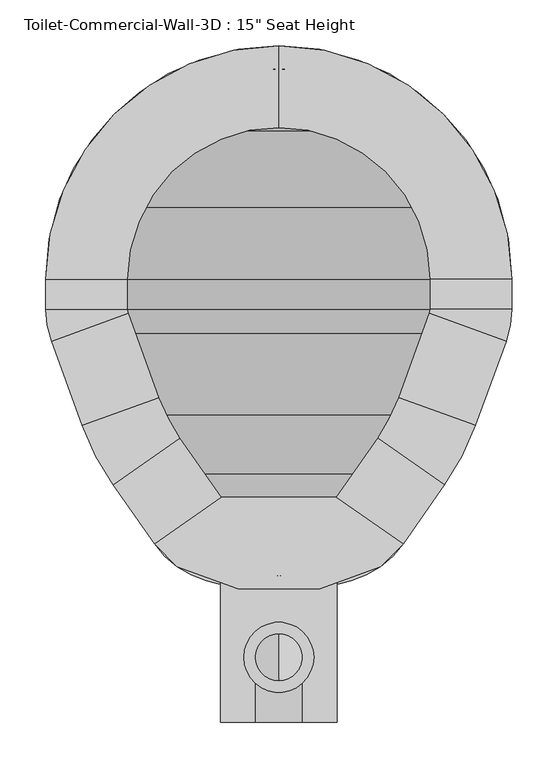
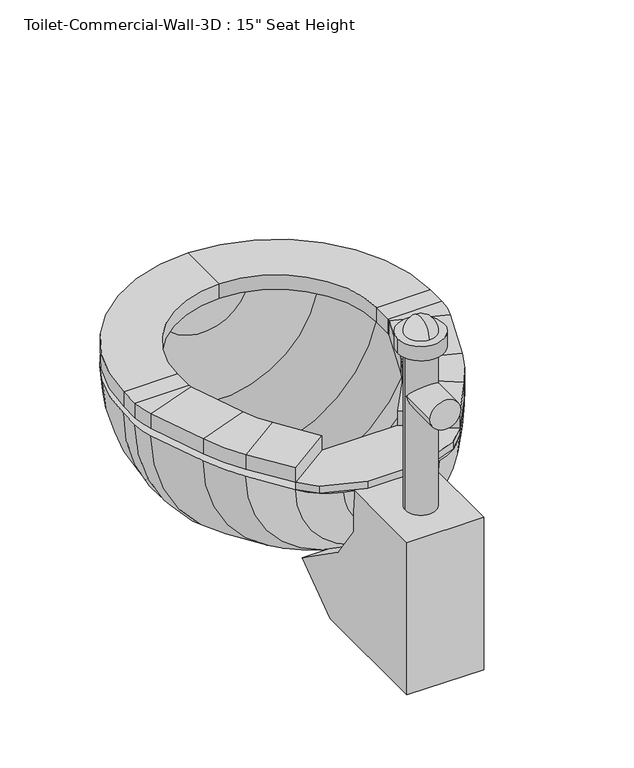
"""IFC4 building model written with IfcOpenShell, lengths in millimetres: flow terminal geometry."""

from ifc_helpers import new_model, si_unit, point, frame, frame_2d, origin, place, context, project, spatial, polyline, circle_curve, ellipse_curve, trimmed, segment, composite_curve, outline, extrude, source, transform, mapped, element, save
from ifc_brep_helpers import plane_surface, cylinder_surface, revolved_surface, advanced_brep


def flow_terminal_46437620(model_context):
    return source(origin(), model_context, "Body", "SolidModel", [
        extrude(outline(polyline([(209.9537941, 342.9), (209.9537941, 269.296452), (253.6603185, 206.8770663), (357.6926282, 134.0328588), (277.1954017, 76.2), (57.15, 76.2), (57.15, 342.9), (209.9537941, 342.9)])), frame((341.4031538, 0.0, 0.0), z_axis=(1.0, 0.0, 0.0), x_axis=(0.0, 1.0, 0.0)), (0.0, 0.0, 1.0), 127.0),
        extrude(outline(composite_curve([segment(trimmed(circle_curve(frame_2d((404.9031538, 127.6852737)), 25.4), [point((379.5031538, 127.6852737))], [point((430.3031538, 127.6852737))], False, "CARTESIAN"), True, "CONTINUOUS"), segment(trimmed(circle_curve(frame_2d((404.9031538, 127.6852737)), 25.4), [point((430.3031538, 127.6852737))], [point((379.5031538, 127.6852737))], False, "CARTESIAN"), True, "CONTINUOUS")], self_intersect=False)), frame((0.0, 0.0, 342.9), z_axis=(0.0, 0.0, 1.0), x_axis=(1.0, 0.0, 0.0)), (0.0, 0.0, 1.0), 279.4),
        extrude(outline(composite_curve([segment(trimmed(circle_curve(frame_2d((544.2113641, 404.9031538)), 25.4), [point((544.2113641, 379.5031538))], [point((544.2113641, 430.3031538))], False, "CARTESIAN"), True, "CONTINUOUS"), segment(trimmed(circle_curve(frame_2d((544.2113641, 404.9031538)), 25.4), [point((544.2113641, 430.3031538))], [point((544.2113641, 379.5031538))], False, "CARTESIAN"), True, "CONTINUOUS")], self_intersect=False)), frame((0.0, 57.15, 0.0), z_axis=(0.0, 1.0, 0.0), x_axis=(0.0, 0.0, 1.0)), (0.0, 0.0, 1.0), 70.64375),
        extrude(outline(composite_curve([segment(trimmed(circle_curve(frame_2d((404.9031538, 127.6852737)), 38.1), [point((366.8031538, 127.6852737))], [point((443.0031538, 127.6852737))], False, "CARTESIAN"), True, "CONTINUOUS"), segment(trimmed(circle_curve(frame_2d((404.9031538, 127.6852737)), 38.1), [point((443.0031538, 127.6852737))], [point((366.8031538, 127.6852737))], False, "CARTESIAN"), True, "CONTINUOUS")], self_intersect=False)), frame((0.0, 0.0, 622.3), z_axis=(0.0, 0.0, 1.0), x_axis=(1.0, 0.0, 0.0)), (0.0, 0.0, 1.0), 25.4),
        advanced_brep(
        [(404.9031538, 102.0676912, 647.7), (404.9031538, 153.3028563, 647.7), (404.9031538, 127.6852737, 673.3175826), (404.9031538, 127.6852737, 647.7)],
        [
            (0, 1, circle_curve(frame((404.9031538, 127.6852737, 647.7), z_axis=(0.0, 0.0, 1.0), x_axis=(0.0, 1.0, 0.0)), 25.6175826)),
            (1, 2, circle_curve(frame((404.9031538, 127.6852737, 647.7), z_axis=(1.0, 0.0, 0.0), x_axis=(0.0, -1.0, 0.0)), 25.6175826)),
            (2, 0, circle_curve(frame((404.9031538, 127.6852737, 647.7), z_axis=(1.0, 0.0, 0.0), x_axis=(0.0, 1.0, 0.0)), 25.6175826)),
            (1, 0, circle_curve(frame((404.9031538, 127.6852737, 647.7), z_axis=(0.0, 0.0, 1.0), x_axis=(0.0, 1.0, 0.0)), 25.6175826)),
            (3, 1),
            (0, 3),
        ],
        [
            revolved_surface(trimmed(ellipse_curve(frame((404.9031538, 127.6852737, 647.7), z_axis=(-1.0, 0.0, 0.0), x_axis=(0.0, -1.0, 0.0)), 25.6175826, 25.6175826), [point((404.9031538, 127.6852737, 673.3175826))], [point((404.9031538, 153.3028563, 647.7))], True, "CARTESIAN"), (404.9031538, 127.6852737, 712.3277273), (0.0, 0.0, -1.0)),
            plane_surface(frame((404.9031538, 127.6852737, 647.7), z_axis=(0.0, 0.0, -1.0), x_axis=(0.0, 1.0, 0.0))),
        ],
        [
            (0, [[1, 2, 3]]),
            (0, [[4, -3, -2]]),
            (1, [[5, -1, 6]]),
            (1, [[-6, -4, -5]]),
        ],
    ),
        advanced_brep(
        [(491.7762702, 778.4319257, 342.9), (404.9031538, 793.75, 342.9), (404.9031538, 768.35, 342.9), (483.0889586, 754.5637331, 342.9), (566.547764, 701.3946102, 342.9), (619.7168869, 617.9358048, 342.9), (633.5031538, 539.75, 342.9), (633.5031538, 506.8648212, 342.9), (628.9077315, 480.8028863, 342.9), (596.6355667, 392.1358422, 342.9), (562.9565296, 327.4390139, 342.9), (525.0728964, 273.3355786, 342.9), (468.1430637, 233.4728806, 342.9), (404.9031538, 216.5277978, 342.9), (404.9031538, 190.2317829, 342.9), (483.6469009, 211.3311063, 342.9), (540.5767337, 251.1938043, 342.9), (585.6810159, 315.6093951, 342.9), (619.360053, 380.3062234, 342.9), (652.7759241, 472.1155747, 342.9), (658.9031538, 506.8648212, 342.9), (658.9031538, 539.75, 342.9), (643.5850795, 626.6231164, 342.9), (584.5082762, 719.3551224, 342.9), (318.0300374, 778.4319257, 342.9), (225.2980314, 719.3551224, 342.9), (166.2212281, 626.6231164, 342.9), (150.9031538, 539.75, 342.9), (150.9031538, 506.8648212, 342.9), (157.0303835, 472.1155747, 342.9), (190.4462546, 380.3062234, 342.9), (224.1252917, 315.6093951, 342.9), (269.229574, 251.1938043, 342.9), (326.1594067, 211.3311063, 342.9), (341.663244, 233.4728806, 342.9), (284.7334112, 273.3355786, 342.9), (246.849778, 327.4390139, 342.9), (213.1707409, 392.1358422, 342.9), (180.8985761, 480.8028863, 342.9), (176.3031538, 506.8648212, 342.9), (176.3031538, 539.75, 342.9), (190.0894207, 617.9358048, 342.9), (243.2585436, 701.3946102, 342.9), (326.7173491, 754.5637331, 342.9)],
        [
            (0, 1, circle_curve(frame((404.9031538, 539.75, 342.9), z_axis=(0.0, 0.0, 1.0), x_axis=(1.0, 0.0, 0.0)), 254.0)),
            (1, 2),
            (2, 3, circle_curve(frame((404.9031538, 539.75, 342.9), z_axis=(0.0, 0.0, -1.0), x_axis=(1.0, 0.0, 0.0)), 228.6)),
            (3, 4, circle_curve(frame((404.9031538, 539.75, 342.9), z_axis=(0.0, 0.0, -1.0), x_axis=(1.0, 0.0, 0.0)), 228.6)),
            (4, 5, circle_curve(frame((404.9031538, 539.75, 342.9), z_axis=(0.0, 0.0, -1.0), x_axis=(1.0, 0.0, 0.0)), 228.6)),
            (5, 6, circle_curve(frame((404.9031538, 539.75, 342.9), z_axis=(0.0, 0.0, -1.0), x_axis=(1.0, 0.0, 0.0)), 228.6)),
            (6, 7),
            (7, 8, circle_curve(frame((557.3031538, 506.8648212, 342.9), z_axis=(0.0, 0.0, -1.0), x_axis=(1.0, 0.0, 0.0)), 76.2)),
            (8, 9),
            (9, 10, circle_curve(frame((334.0854485, 487.6962703, 342.9), z_axis=(0.0, 0.0, -1.0), x_axis=(1.0, 0.0, 0.0)), 279.4)),
            (10, 11),
            (11, 12, circle_curve(frame((441.8470487, 331.6109446, 342.9), z_axis=(0.0, 0.0, -1.0), x_axis=(1.0, 0.0, 0.0)), 101.6)),
            (12, 13),
            (13, 14),
            (14, 15),
            (15, 16, circle_curve(frame((457.350886, 309.4691703, 342.9), z_axis=(0.0, 0.0, 1.0), x_axis=(1.0, 0.0, 0.0)), 101.6)),
            (16, 17),
            (17, 18, circle_curve(frame((356.8099347, 475.8666514, 342.9), z_axis=(0.0, 0.0, 1.0), x_axis=(1.0, 0.0, 0.0)), 279.4)),
            (18, 19),
            (19, 20, circle_curve(frame((557.3031538, 506.8648212, 342.9), z_axis=(0.0, 0.0, 1.0), x_axis=(1.0, 0.0, 0.0)), 101.6)),
            (20, 21),
            (21, 22, circle_curve(frame((404.9031538, 539.75, 342.9), z_axis=(0.0, 0.0, 1.0), x_axis=(1.0, 0.0, 0.0)), 254.0)),
            (22, 23, circle_curve(frame((404.9031538, 539.75, 342.9), z_axis=(0.0, 0.0, 1.0), x_axis=(1.0, 0.0, 0.0)), 254.0)),
            (23, 0, circle_curve(frame((404.9031538, 539.75, 342.9), z_axis=(0.0, 0.0, 1.0), x_axis=(1.0, 0.0, 0.0)), 254.0)),
            (24, 25, circle_curve(frame((404.9031538, 539.75, 342.9), z_axis=(0.0, 0.0, 1.0), x_axis=(-1.0, 0.0, 0.0)), 254.0)),
            (25, 26, circle_curve(frame((404.9031538, 539.75, 342.9), z_axis=(0.0, 0.0, 1.0), x_axis=(-1.0, 0.0, 0.0)), 254.0)),
            (26, 27, circle_curve(frame((404.9031538, 539.75, 342.9), z_axis=(0.0, 0.0, 1.0), x_axis=(-1.0, 0.0, 0.0)), 254.0)),
            (27, 28),
            (28, 29, circle_curve(frame((252.5031538, 506.8648212, 342.9), z_axis=(0.0, 0.0, 1.0), x_axis=(-1.0, 0.0, 0.0)), 101.6)),
            (29, 30),
            (30, 31, circle_curve(frame((452.9963729, 475.8666514, 342.9), z_axis=(0.0, 0.0, 1.0), x_axis=(-1.0, 0.0, 0.0)), 279.4)),
            (31, 32),
            (32, 33, circle_curve(frame((352.4554217, 309.4691703, 342.9), z_axis=(0.0, 0.0, 1.0), x_axis=(-1.0, 0.0, 0.0)), 101.6)),
            (33, 14),
            (13, 34),
            (34, 35, circle_curve(frame((367.9592589, 331.6109446, 342.9), z_axis=(0.0, 0.0, -1.0), x_axis=(-1.0, 0.0, 0.0)), 101.6)),
            (35, 36),
            (36, 37, circle_curve(frame((475.7208592, 487.6962703, 342.9), z_axis=(0.0, 0.0, -1.0), x_axis=(-1.0, 0.0, 0.0)), 279.4)),
            (37, 38),
            (38, 39, circle_curve(frame((252.5031538, 506.8648212, 342.9), z_axis=(0.0, 0.0, -1.0), x_axis=(-1.0, 0.0, 0.0)), 76.2)),
            (39, 40),
            (40, 41, circle_curve(frame((404.9031538, 539.75, 342.9), z_axis=(0.0, 0.0, -1.0), x_axis=(-1.0, 0.0, 0.0)), 228.6)),
            (41, 42, circle_curve(frame((404.9031538, 539.75, 342.9), z_axis=(0.0, 0.0, -1.0), x_axis=(-1.0, 0.0, 0.0)), 228.6)),
            (42, 43, circle_curve(frame((404.9031538, 539.75, 342.9), z_axis=(0.0, 0.0, -1.0), x_axis=(-1.0, 0.0, 0.0)), 228.6)),
            (43, 2, circle_curve(frame((404.9031538, 539.75, 342.9), z_axis=(0.0, 0.0, -1.0), x_axis=(-1.0, 0.0, 0.0)), 228.6)),
            (1, 24, circle_curve(frame((404.9031538, 539.75, 342.9), z_axis=(0.0, 0.0, 1.0), x_axis=(-1.0, 0.0, 0.0)), 254.0)),
            (0, 24, circle_curve(frame((404.9031538, 778.4319257, 342.9), z_axis=(0.0, 1.0, 0.0), x_axis=(1.0, 0.0, 0.0)), 86.8731164)),
            (43, 3, circle_curve(frame((404.9031538, 754.5637331, 342.9), z_axis=(0.0, -1.0, 0.0), x_axis=(1.0, 0.0, 0.0)), 78.1858048)),
            (42, 4, circle_curve(frame((404.9031538, 701.3946102, 342.9), z_axis=(0.0, -1.0, 0.0), x_axis=(1.0, 0.0, 0.0)), 161.6446102)),
            (41, 5, circle_curve(frame((404.9031538, 617.9358048, 342.9), z_axis=(0.0, -1.0, 0.0), x_axis=(1.0, 0.0, 0.0)), 214.8137331)),
            (40, 6, circle_curve(frame((404.9031538, 539.75, 342.9), z_axis=(0.0, -1.0, 0.0), x_axis=(1.0, 0.0, 0.0)), 228.6)),
            (39, 7, circle_curve(frame((404.9031538, 506.8648212, 342.9), z_axis=(0.0, -1.0, 0.0), x_axis=(1.0, 0.0, 0.0)), 228.6)),
            (38, 8, circle_curve(frame((404.9031538, 480.8028863, 342.9), z_axis=(0.0, -1.0, 0.0), x_axis=(1.0, 0.0, 0.0)), 224.0045777)),
            (37, 9, circle_curve(frame((404.9031538, 392.1358422, 342.9), z_axis=(0.0, -1.0, 0.0), x_axis=(1.0, 0.0, 0.0)), 191.7324129)),
            (36, 10, circle_curve(frame((404.9031538, 327.4390139, 342.9), z_axis=(0.0, -1.0, 0.0), x_axis=(1.0, 0.0, 0.0)), 158.0533758)),
            (35, 11, circle_curve(frame((404.9031538, 273.3355786, 342.9), z_axis=(0.0, -1.0, 0.0), x_axis=(1.0, 0.0, 0.0)), 120.1697426)),
            (34, 12, circle_curve(frame((404.9031538, 233.4728806, 342.9), z_axis=(0.0, -1.0, 0.0), x_axis=(1.0, 0.0, 0.0)), 63.2399099)),
            (33, 15, circle_curve(frame((404.9031538, 211.3311063, 342.9), z_axis=(0.0, -1.0, 0.0), x_axis=(1.0, 0.0, 0.0)), 78.7437471)),
            (32, 16, circle_curve(frame((404.9031538, 251.1938043, 342.9), z_axis=(0.0, -1.0, 0.0), x_axis=(1.0, 0.0, 0.0)), 135.6735798)),
            (31, 17, circle_curve(frame((404.9031538, 315.6093951, 342.9), z_axis=(0.0, -1.0, 0.0), x_axis=(1.0, 0.0, 0.0)), 180.7778621)),
            (30, 18, circle_curve(frame((404.9031538, 380.3062234, 342.9), z_axis=(0.0, -1.0, 0.0), x_axis=(1.0, 0.0, 0.0)), 214.4568992)),
            (29, 19, circle_curve(frame((404.9031538, 472.1155747, 342.9), z_axis=(0.0, -1.0, 0.0), x_axis=(1.0, 0.0, 0.0)), 247.8727703)),
            (28, 20, circle_curve(frame((404.9031538, 506.8648212, 342.9), z_axis=(0.0, -1.0, 0.0), x_axis=(1.0, 0.0, 0.0)), 254.0)),
            (27, 21, circle_curve(frame((404.9031538, 539.75, 342.9), z_axis=(0.0, -1.0, 0.0), x_axis=(1.0, 0.0, 0.0)), 254.0)),
            (26, 22, circle_curve(frame((404.9031538, 626.6231164, 342.9), z_axis=(0.0, -1.0, 0.0), x_axis=(1.0, 0.0, 0.0)), 238.6819257)),
            (25, 23, circle_curve(frame((404.9031538, 719.3551224, 342.9), z_axis=(0.0, -1.0, 0.0), x_axis=(1.0, 0.0, 0.0)), 179.6051224)),
        ],
        [
            plane_surface(frame((404.9031538, 898.9602448, 342.9), z_axis=(0.0, 0.0, 1.0), x_axis=(1.0, 0.0, 0.0))),
            plane_surface(frame((404.9031538, 898.9602448, 342.9), z_axis=(0.0, 0.0, 1.0), x_axis=(-1.0, 0.0, 0.0))),
            revolved_surface(trimmed(ellipse_curve(frame((404.9031538, 539.75, 342.9), z_axis=(0.0, 0.0, 1.0), x_axis=(1.0, 0.0, 0.0)), 254.0, 254.0), [point((491.7762702, 778.4319257, 342.9))], [point((404.9031538, 793.75, 342.9))], True, "CARTESIAN"), (404.9031538, 898.9602448, 342.9), (0.0, 1.0, 0.0)),
            revolved_surface(trimmed(ellipse_curve(frame((404.9031538, 539.75, 342.9), z_axis=(0.0, 0.0, -1.0), x_axis=(1.0, 0.0, 0.0)), 228.6, 228.6), [point((404.9031538, 768.35, 342.9))], [point((483.0889586, 754.5637331, 342.9))], True, "CARTESIAN"), (404.9031538, 898.9602448, 342.9), (0.0, 1.0, 0.0)),
            revolved_surface(trimmed(ellipse_curve(frame((404.9031538, 539.75, 342.9), z_axis=(0.0, 0.0, -1.0), x_axis=(1.0, 0.0, 0.0)), 228.6, 228.6), [point((483.0889586, 754.5637331, 342.9))], [point((566.547764, 701.3946102, 342.9))], True, "CARTESIAN"), (404.9031538, 898.9602448, 342.9), (0.0, 1.0, 0.0)),
            revolved_surface(trimmed(ellipse_curve(frame((404.9031538, 539.75, 342.9), z_axis=(0.0, 0.0, -1.0), x_axis=(1.0, 0.0, 0.0)), 228.6, 228.6), [point((566.547764, 701.3946102, 342.9))], [point((619.7168869, 617.9358048, 342.9))], True, "CARTESIAN"), (404.9031538, 898.9602448, 342.9), (0.0, 1.0, 0.0)),
            revolved_surface(trimmed(ellipse_curve(frame((404.9031538, 539.75, 342.9), z_axis=(0.0, 0.0, -1.0), x_axis=(1.0, 0.0, 0.0)), 228.6, 228.6), [point((619.7168869, 617.9358048, 342.9))], [point((633.5031538, 539.75, 342.9))], True, "CARTESIAN"), (404.9031538, 898.9602448, 342.9), (0.0, 1.0, 0.0)),
            revolved_surface(polyline([(633.5031538, 539.75, 342.9), (633.5031538, 506.8648212, 342.9)]), (404.9031538, 898.9602448, 342.9), (0.0, 1.0, 0.0)),
            revolved_surface(trimmed(ellipse_curve(frame((557.3031538, 506.8648212, 342.9), z_axis=(0.0, 0.0, -1.0), x_axis=(1.0, 0.0, 0.0)), 76.2, 76.2), [point((633.5031538, 506.8648212, 342.9))], [point((628.9077315, 480.8028863, 342.9))], True, "CARTESIAN"), (404.9031538, 898.9602448, 342.9), (0.0, 1.0, 0.0)),
            revolved_surface(polyline([(628.9077315, 480.8028863, 342.9), (596.6355667, 392.1358422, 342.9)]), (404.9031538, 898.9602448, 342.9), (0.0, 1.0, 0.0)),
            revolved_surface(trimmed(ellipse_curve(frame((334.0854485, 487.6962703, 342.9), z_axis=(0.0, 0.0, -1.0), x_axis=(1.0, 0.0, 0.0)), 279.4, 279.4), [point((596.6355667, 392.1358422, 342.9))], [point((562.9565296, 327.4390139, 342.9))], True, "CARTESIAN"), (404.9031538, 898.9602448, 342.9), (0.0, 1.0, 0.0)),
            revolved_surface(polyline([(562.9565296, 327.4390139, 342.9), (525.0728964, 273.3355786, 342.9)]), (404.9031538, 898.9602448, 342.9), (0.0, 1.0, 0.0)),
            revolved_surface(trimmed(ellipse_curve(frame((441.8470487, 331.6109446, 342.9), z_axis=(0.0, 0.0, -1.0), x_axis=(1.0, 0.0, 0.0)), 101.6, 101.6), [point((525.0728964, 273.3355786, 342.9))], [point((468.1430637, 233.4728806, 342.9))], True, "CARTESIAN"), (404.9031538, 898.9602448, 342.9), (0.0, 1.0, 0.0)),
            revolved_surface(polyline([(468.1430637, 233.4728806, 342.9), (404.9031538, 216.5277978, 342.9)]), (404.9031538, 898.9602448, 342.9), (0.0, 1.0, 0.0)),
            revolved_surface(polyline([(404.9031538, 190.2317829, 342.9), (483.6469009, 211.3311063, 342.9)]), (404.9031538, 898.9602448, 342.9), (0.0, 1.0, 0.0)),
            revolved_surface(trimmed(ellipse_curve(frame((457.350886, 309.4691703, 342.9), z_axis=(0.0, 0.0, 1.0), x_axis=(1.0, 0.0, 0.0)), 101.6, 101.6), [point((483.6469009, 211.3311063, 342.9))], [point((540.5767337, 251.1938043, 342.9))], True, "CARTESIAN"), (404.9031538, 898.9602448, 342.9), (0.0, 1.0, 0.0)),
            revolved_surface(polyline([(540.5767337, 251.1938043, 342.9), (585.6810159, 315.6093951, 342.9)]), (404.9031538, 898.9602448, 342.9), (0.0, 1.0, 0.0)),
            revolved_surface(trimmed(ellipse_curve(frame((356.8099347, 475.8666514, 342.9), z_axis=(0.0, 0.0, 1.0), x_axis=(1.0, 0.0, 0.0)), 279.4, 279.4), [point((585.6810159, 315.6093951, 342.9))], [point((619.360053, 380.3062234, 342.9))], True, "CARTESIAN"), (404.9031538, 898.9602448, 342.9), (0.0, 1.0, 0.0)),
            revolved_surface(polyline([(619.360053, 380.3062234, 342.9), (652.7759241, 472.1155747, 342.9)]), (404.9031538, 898.9602448, 342.9), (0.0, 1.0, 0.0)),
            revolved_surface(trimmed(ellipse_curve(frame((557.3031538, 506.8648212, 342.9), z_axis=(0.0, 0.0, 1.0), x_axis=(1.0, 0.0, 0.0)), 101.6, 101.6), [point((652.7759241, 472.1155747, 342.9))], [point((658.9031538, 506.8648212, 342.9))], True, "CARTESIAN"), (404.9031538, 898.9602448, 342.9), (0.0, 1.0, 0.0)),
            cylinder_surface(frame((404.9031538, 898.9602448, 342.9), z_axis=(0.0, 1.0, 0.0), x_axis=(1.0, 0.0, 0.0)), 254.0),
            revolved_surface(trimmed(ellipse_curve(frame((404.9031538, 539.75, 342.9), z_axis=(0.0, 0.0, 1.0), x_axis=(1.0, 0.0, 0.0)), 254.0, 254.0), [point((658.9031538, 539.75, 342.9))], [point((643.5850795, 626.6231164, 342.9))], True, "CARTESIAN"), (404.9031538, 898.9602448, 342.9), (0.0, 1.0, 0.0)),
            revolved_surface(trimmed(ellipse_curve(frame((404.9031538, 539.75, 342.9), z_axis=(0.0, 0.0, 1.0), x_axis=(1.0, 0.0, 0.0)), 254.0, 254.0), [point((643.5850795, 626.6231164, 342.9))], [point((584.5082762, 719.3551224, 342.9))], True, "CARTESIAN"), (404.9031538, 898.9602448, 342.9), (0.0, 1.0, 0.0)),
            revolved_surface(trimmed(ellipse_curve(frame((404.9031538, 539.75, 342.9), z_axis=(0.0, 0.0, 1.0), x_axis=(1.0, 0.0, 0.0)), 254.0, 254.0), [point((584.5082762, 719.3551224, 342.9))], [point((491.7762702, 778.4319257, 342.9))], True, "CARTESIAN"), (404.9031538, 898.9602448, 342.9), (0.0, 1.0, 0.0)),
        ],
        [
            (0, [[1, 2, 3, 4, 5, 6, 7, 8, 9, 10, 11, 12, 13, 14, 15, 16, 17, 18, 19, 20, 21, 22, 23, 24]]),
            (1, [[25, 26, 27, 28, 29, 30, 31, 32, 33, 34, -14, 35, 36, 37, 38, 39, 40, 41, 42, 43, 44, 45, -2, 46]]),
            (2, [[-1, 47, -46]]),
            (3, [[48, -3, -45]]),
            (4, [[49, -4, -48, -44]]),
            (5, [[50, -5, -49, -43]]),
            (6, [[51, -6, -50, -42]]),
            (7, [[52, -7, -51, -41]]),
            (8, [[53, -8, -52, -40]]),
            (9, [[54, -9, -53, -39]]),
            (10, [[55, -10, -54, -38]]),
            (11, [[56, -11, -55, -37]]),
            (12, [[57, -12, -56, -36]]),
            (13, [[-13, -57, -35]]),
            (14, [[58, -15, -34]]),
            (15, [[59, -16, -58, -33]]),
            (16, [[60, -17, -59, -32]]),
            (17, [[61, -18, -60, -31]]),
            (18, [[62, -19, -61, -30]]),
            (19, [[63, -20, -62, -29]]),
            (20, [[64, -21, -63, -28]]),
            (21, [[65, -22, -64, -27]]),
            (22, [[66, -23, -65, -26]]),
            (23, [[-47, -24, -66, -25]]),
        ],
    ),
        advanced_brep(
        [(467.7541169, 302.1847495, 355.6), (540.5767337, 251.1938043, 355.6), (540.5767337, 251.1938043, 381.0), (467.7541169, 302.1847495, 381.0), (512.8583992, 366.6003403, 355.6), (585.6810159, 315.6093951, 355.6), (585.6810159, 315.6093951, 381.0), (512.8583992, 366.6003403, 381.0), (619.360053, 380.3062234, 355.6), (535.821379, 410.7118141, 355.6), (619.360053, 380.3062234, 381.0), (535.821379, 410.7118141, 381.0), (569.2372501, 502.5211654, 355.6), (652.7759241, 472.1155747, 355.6), (652.7759241, 472.1155747, 381.0), (569.2372501, 502.5211654, 381.0), (658.9031538, 506.8648212, 355.6), (570.0031538, 506.8648212, 355.6), (658.9031538, 506.8648212, 381.0), (570.0031538, 506.8648212, 381.0), (570.0031538, 539.75, 355.6), (658.9031538, 539.75, 355.6), (658.9031538, 539.75, 381.0), (570.0031538, 539.75, 381.0), (404.9031538, 793.75, 355.6), (404.9031538, 704.85, 355.6), (404.9031538, 793.75, 381.0), (404.9031538, 704.85, 381.0), (150.9031538, 539.75, 355.6), (239.8031538, 539.75, 355.6), (150.9031538, 539.75, 381.0), (239.8031538, 539.75, 381.0), (239.8031538, 506.8648212, 355.6), (150.9031538, 506.8648212, 355.6), (150.9031538, 506.8648212, 381.0), (239.8031538, 506.8648212, 381.0), (157.0303835, 472.1155747, 355.6), (240.5690575, 502.5211654, 355.6), (157.0303835, 472.1155747, 381.0), (240.5690575, 502.5211654, 381.0), (273.9849286, 410.7118141, 355.6), (190.4462546, 380.3062234, 355.6), (190.4462546, 380.3062234, 381.0), (273.9849286, 410.7118141, 381.0), (224.1252917, 315.6093951, 355.6), (296.9479084, 366.6003403, 355.6), (224.1252917, 315.6093951, 381.0), (296.9479084, 366.6003403, 381.0), (342.0521907, 302.1847495, 355.6), (342.0521907, 302.1847495, 381.0), (269.229574, 251.1938043, 381.0), (269.229574, 251.1938043, 355.6)],
        [
            (0, 1),
            (1, 2),
            (2, 3),
            (3, 0),
            (0, 4),
            (4, 5),
            (5, 1),
            (5, 6),
            (6, 2),
            (6, 7),
            (7, 3),
            (7, 4),
            (8, 5, circle_curve(frame((356.8099347, 475.8666514, 355.6), z_axis=(0.0, 0.0, -1.0), x_axis=(0.81915204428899, -0.5735764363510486, 0.0)), 279.4)),
            (4, 9, circle_curve(frame((356.8099347, 475.8666514, 355.6), z_axis=(0.0, 0.0, 1.0), x_axis=(0.81915204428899, -0.5735764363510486, 0.0)), 190.5)),
            (9, 8),
            (10, 6, circle_curve(frame((356.8099347, 475.8666514, 381.0), z_axis=(0.0, 0.0, -1.0), x_axis=(0.81915204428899, -0.5735764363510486, 0.0)), 279.4)),
            (8, 10),
            (11, 7, circle_curve(frame((356.8099347, 475.8666514, 381.0), z_axis=(0.0, 0.0, -1.0), x_axis=(0.81915204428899, -0.5735764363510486, 0.0)), 190.5)),
            (10, 11),
            (11, 9),
            (9, 12),
            (12, 13),
            (13, 8),
            (13, 14),
            (14, 10),
            (14, 15),
            (15, 11),
            (15, 12),
            (16, 13, circle_curve(frame((557.3031538, 506.8648212, 355.6), z_axis=(0.0, 0.0, -1.0), x_axis=(0.939692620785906, -0.34202014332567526, 0.0)), 101.6)),
            (12, 17, circle_curve(frame((557.3031538, 506.8648212, 355.6), z_axis=(0.0, 0.0, 1.0), x_axis=(0.939692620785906, -0.34202014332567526, 0.0)), 12.7)),
            (17, 16),
            (18, 14, circle_curve(frame((557.3031538, 506.8648212, 381.0), z_axis=(0.0, 0.0, -1.0), x_axis=(0.939692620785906, -0.34202014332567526, 0.0)), 101.6)),
            (16, 18),
            (19, 15, circle_curve(frame((557.3031538, 506.8648212, 381.0), z_axis=(0.0, 0.0, -1.0), x_axis=(0.939692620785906, -0.34202014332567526, 0.0)), 12.7)),
            (18, 19),
            (19, 17),
            (17, 20),
            (20, 21),
            (21, 16),
            (21, 22),
            (22, 18),
            (22, 23),
            (23, 19),
            (23, 20),
            (24, 21, circle_curve(frame((404.9031538, 539.75, 355.6), z_axis=(0.0, 0.0, -1.0), x_axis=(1.0, 0.0, 0.0)), 254.0)),
            (20, 25, circle_curve(frame((404.9031538, 539.75, 355.6), z_axis=(0.0, 0.0, 1.0), x_axis=(1.0, 0.0, 0.0)), 165.1)),
            (25, 24),
            (26, 22, circle_curve(frame((404.9031538, 539.75, 381.0), z_axis=(0.0, 0.0, -1.0), x_axis=(1.0, 0.0, 0.0)), 254.0)),
            (24, 26),
            (27, 23, circle_curve(frame((404.9031538, 539.75, 381.0), z_axis=(0.0, 0.0, -1.0), x_axis=(1.0, 0.0, 0.0)), 165.1)),
            (26, 27),
            (27, 25),
            (28, 24, circle_curve(frame((404.9031538, 539.75, 355.6), z_axis=(0.0, 0.0, -1.0), x_axis=(0.0, 1.0, 0.0)), 254.0)),
            (25, 29, circle_curve(frame((404.9031538, 539.75, 355.6), z_axis=(0.0, 0.0, 1.0), x_axis=(0.0, 1.0, 0.0)), 165.1)),
            (29, 28),
            (30, 26, circle_curve(frame((404.9031538, 539.75, 381.0), z_axis=(0.0, 0.0, -1.0), x_axis=(0.0, 1.0, 0.0)), 254.0)),
            (28, 30),
            (31, 27, circle_curve(frame((404.9031538, 539.75, 381.0), z_axis=(0.0, 0.0, -1.0), x_axis=(0.0, 1.0, 0.0)), 165.1)),
            (30, 31),
            (31, 29),
            (29, 32),
            (32, 33),
            (33, 28),
            (33, 34),
            (34, 30),
            (34, 35),
            (35, 31),
            (35, 32),
            (36, 33, circle_curve(frame((252.5031538, 506.8648212, 355.6), z_axis=(0.0, 0.0, -1.0), x_axis=(-1.0, 0.0, 0.0)), 101.6)),
            (32, 37, circle_curve(frame((252.5031538, 506.8648212, 355.6), z_axis=(0.0, 0.0, 1.0), x_axis=(-1.0, 0.0, 0.0)), 12.7)),
            (37, 36),
            (38, 34, circle_curve(frame((252.5031538, 506.8648212, 381.0), z_axis=(0.0, 0.0, -1.0), x_axis=(-1.0, 0.0, 0.0)), 101.6)),
            (36, 38),
            (39, 35, circle_curve(frame((252.5031538, 506.8648212, 381.0), z_axis=(0.0, 0.0, -1.0), x_axis=(-1.0, 0.0, 0.0)), 12.7)),
            (38, 39),
            (39, 37),
            (37, 40),
            (40, 41),
            (41, 36),
            (41, 42),
            (42, 38),
            (42, 43),
            (43, 39),
            (43, 40),
            (44, 41, circle_curve(frame((452.9963729, 475.8666514, 355.6), z_axis=(0.0, 0.0, -1.0), x_axis=(-0.9396926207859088, -0.34202014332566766, 0.0)), 279.4)),
            (40, 45, circle_curve(frame((452.9963729, 475.8666514, 355.6), z_axis=(0.0, 0.0, 1.0), x_axis=(-0.9396926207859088, -0.34202014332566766, 0.0)), 190.5)),
            (45, 44),
            (46, 42, circle_curve(frame((452.9963729, 475.8666514, 381.0), z_axis=(0.0, 0.0, -1.0), x_axis=(-0.9396926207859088, -0.34202014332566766, 0.0)), 279.4)),
            (44, 46),
            (47, 43, circle_curve(frame((452.9963729, 475.8666514, 381.0), z_axis=(0.0, 0.0, -1.0), x_axis=(-0.9396926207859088, -0.34202014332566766, 0.0)), 190.5)),
            (46, 47),
            (47, 45),
            (48, 49),
            (49, 50),
            (50, 51),
            (51, 48),
            (45, 48),
            (51, 44),
            (50, 46),
            (49, 47),
        ],
        [
            plane_surface(frame((540.5767337, 251.1938043, 439.6203184), z_axis=(-0.5735764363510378, -0.8191520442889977, 0.0), x_axis=(0.8191520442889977, -0.5735764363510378, 0.0))),
            plane_surface(frame((467.7541169, 302.1847495, 355.6), z_axis=(0.0, 0.0, -1.0000000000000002), x_axis=(0.5735764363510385, 0.8191520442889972, 0.0))),
            plane_surface(frame((540.5767337, 251.1938043, 355.6), z_axis=(0.8191520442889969, -0.5735764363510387, 0.0), x_axis=(0.5735764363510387, 0.8191520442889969, 0.0))),
            plane_surface(frame((540.5767337, 251.1938043, 381.0), z_axis=(0.0, 0.0, 1.0), x_axis=(0.5735764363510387, 0.8191520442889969, 0.0))),
            plane_surface(frame((467.7541169, 302.1847495, 381.0), z_axis=(-0.8191520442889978, 0.5735764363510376, 0.0), x_axis=(0.5735764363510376, 0.8191520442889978, 0.0))),
            plane_surface(frame((356.8099347, 475.8666514, 355.6), z_axis=(0.0, 0.0, -1.0), x_axis=(0.81915204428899, -0.5735764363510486, 0.0))),
            cylinder_surface(frame((356.8099347, 475.8666514, 342.9), z_axis=(0.0, 0.0, 1.0), x_axis=(0.81915204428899, -0.5735764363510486, 0.0)), 279.4),
            plane_surface(frame((356.8099347, 475.8666514, 381.0), z_axis=(0.0, 0.0, 1.0), x_axis=(0.81915204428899, -0.5735764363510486, 0.0))),
            revolved_surface(polyline([(512.8583991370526, 366.6003402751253, 381.0), (512.8583991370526, 366.6003402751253, 355.6)]), (356.8099347, 475.8666514, 342.9), (0.0, 0.0, 1.0)),
            plane_surface(frame((535.821379, 410.7118141, 355.6), z_axis=(0.0, 0.0, -1.0), x_axis=(0.3420201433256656, 0.9396926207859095, 0.0))),
            plane_surface(frame((619.360053, 380.3062234, 355.6), z_axis=(0.9396926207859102, -0.3420201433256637, 0.0), x_axis=(0.3420201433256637, 0.9396926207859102, 0.0))),
            plane_surface(frame((619.360053, 380.3062234, 381.0), z_axis=(0.0, 0.0, 1.0), x_axis=(0.3420201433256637, 0.9396926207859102, 0.0))),
            plane_surface(frame((535.821379, 410.7118141, 381.0), z_axis=(-0.9396926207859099, 0.3420201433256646, 0.0), x_axis=(0.3420201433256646, 0.9396926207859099, 0.0))),
            plane_surface(frame((557.3031538, 506.8648212, 355.6), z_axis=(0.0, 0.0, -1.0), x_axis=(0.939692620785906, -0.34202014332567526, 0.0))),
            cylinder_surface(frame((557.3031538, 506.8648212, 342.9), z_axis=(0.0, 0.0, 1.0), x_axis=(0.939692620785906, -0.34202014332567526, 0.0)), 101.6),
            plane_surface(frame((557.3031538, 506.8648212, 381.0), z_axis=(0.0, 0.0, 1.0), x_axis=(0.939692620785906, -0.34202014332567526, 0.0))),
            revolved_surface(polyline([(569.237250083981, 502.52116537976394, 381.0), (569.237250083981, 502.52116537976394, 355.6)]), (557.3031538, 506.8648212, 342.9), (0.0, 0.0, 1.0)),
            plane_surface(frame((570.0031538, 506.8648212, 355.6), z_axis=(0.0, 0.0, -1.0), x_axis=(0.0, 1.0, 0.0))),
            plane_surface(frame((658.9031538, 506.8648212, 355.6), z_axis=(1.0, 0.0, 0.0), x_axis=(0.0, 1.0, 0.0))),
            plane_surface(frame((658.9031538, 506.8648212, 381.0), z_axis=(0.0, 0.0, 1.0), x_axis=(0.0, 1.0, 0.0))),
            plane_surface(frame((570.0031538, 506.8648212, 381.0), z_axis=(-1.0, 0.0, 0.0), x_axis=(0.0, 1.0, 0.0))),
            plane_surface(frame((404.9031538, 539.75, 355.6), z_axis=(0.0, 0.0, -1.0), x_axis=(1.0, 0.0, 0.0))),
            cylinder_surface(frame((404.9031538, 539.75, 342.9), z_axis=(0.0, 0.0, 1.0), x_axis=(1.0, 0.0, 0.0)), 254.0),
            plane_surface(frame((404.9031538, 539.75, 381.0), z_axis=(0.0, 0.0, 1.0), x_axis=(1.0, 0.0, 0.0))),
            revolved_surface(polyline([(570.0031538, 539.75, 381.0), (570.0031538, 539.75, 355.6)]), (404.9031538, 539.75, 342.9), (0.0, 0.0, 1.0)),
            plane_surface(frame((404.9031538, 539.75, 355.6), z_axis=(0.0, 0.0, -1.0), x_axis=(0.0, 1.0, 0.0))),
            cylinder_surface(frame((404.9031538, 539.75, 342.9), z_axis=(0.0, 0.0, 1.0), x_axis=(0.0, 1.0, 0.0)), 254.0),
            plane_surface(frame((404.9031538, 539.75, 381.0), z_axis=(0.0, 0.0, 1.0), x_axis=(0.0, 1.0, 0.0))),
            revolved_surface(polyline([(404.9031538, 704.85, 381.0), (404.9031538, 704.85, 355.6)]), (404.9031538, 539.75, 342.9), (0.0, 0.0, 1.0)),
            plane_surface(frame((239.8031538, 539.75, 355.6), z_axis=(0.0, 0.0, -1.0), x_axis=(0.0, -1.0, 0.0))),
            plane_surface(frame((150.9031538, 539.75, 355.6), z_axis=(-1.0, 0.0, 0.0), x_axis=(0.0, -1.0, 0.0))),
            plane_surface(frame((150.9031538, 539.75, 381.0), z_axis=(0.0, 0.0, 1.0), x_axis=(0.0, -1.0, 0.0))),
            plane_surface(frame((239.8031538, 539.75, 381.0), z_axis=(1.0, 0.0, 0.0), x_axis=(0.0, -1.0, 0.0))),
            plane_surface(frame((252.5031538, 506.8648212, 355.6), z_axis=(0.0, 0.0, -1.0), x_axis=(-1.0, 0.0, 0.0))),
            cylinder_surface(frame((252.5031538, 506.8648212, 342.9), z_axis=(0.0, 0.0, 1.0), x_axis=(-1.0, 0.0, 0.0)), 101.6),
            plane_surface(frame((252.5031538, 506.8648212, 381.0), z_axis=(0.0, 0.0, 1.0), x_axis=(-1.0, 0.0, 0.0))),
            revolved_surface(polyline([(239.80315380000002, 506.8648212, 381.0), (239.80315380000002, 506.8648212, 355.6)]), (252.5031538, 506.8648212, 342.9), (0.0, 0.0, 1.0)),
            plane_surface(frame((240.5690575, 502.5211654, 355.6), z_axis=(0.0, 0.0, -1.0), x_axis=(0.34202014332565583, -0.9396926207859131, 0.0))),
            plane_surface(frame((157.0303835, 472.1155747, 355.6), z_axis=(-0.9396926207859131, -0.34202014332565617, 0.0), x_axis=(0.34202014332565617, -0.9396926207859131, 0.0))),
            plane_surface(frame((157.0303835, 472.1155747, 381.0), z_axis=(0.0, 0.0, 1.0), x_axis=(0.34202014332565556, -0.9396926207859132, 0.0))),
            plane_surface(frame((240.5690575, 502.5211654, 381.0), z_axis=(0.9396926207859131, 0.34202014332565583, 0.0), x_axis=(0.34202014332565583, -0.9396926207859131, 0.0))),
            plane_surface(frame((452.9963729, 475.8666514, 355.6), z_axis=(0.0, 0.0, -1.0), x_axis=(-0.9396926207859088, -0.34202014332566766, 0.0))),
            cylinder_surface(frame((452.9963729, 475.8666514, 342.9), z_axis=(0.0, 0.0, 1.0), x_axis=(-0.9396926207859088, -0.34202014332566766, 0.0)), 279.4),
            plane_surface(frame((452.9963729, 475.8666514, 381.0), z_axis=(0.0, 0.0, 1.0), x_axis=(-0.9396926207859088, -0.34202014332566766, 0.0))),
            revolved_surface(polyline([(273.98492864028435, 410.71181409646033, 381.0), (273.98492864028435, 410.71181409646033, 355.6)]), (452.9963729, 475.8666514, 342.9), (0.0, 0.0, 1.0)),
            plane_surface(frame((269.229574, 251.1938043, 246.1796816), z_axis=(0.5735764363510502, -0.819152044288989, 0.0), x_axis=(0.819152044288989, 0.5735764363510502, 0.0))),
            plane_surface(frame((296.9479084, 366.6003403, 355.6), z_axis=(0.0, 0.0, -1.0000000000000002), x_axis=(0.5735764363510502, -0.819152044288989, 0.0))),
            plane_surface(frame((224.1252917, 315.6093951, 355.6), z_axis=(-0.8191520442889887, -0.5735764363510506, 0.0), x_axis=(0.5735764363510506, -0.8191520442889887, 0.0))),
            plane_surface(frame((224.1252917, 315.6093951, 381.0), z_axis=(0.0, 0.0, 1.0), x_axis=(0.57357643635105, -0.819152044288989, 0.0))),
            plane_surface(frame((296.9479084, 366.6003403, 381.0), z_axis=(0.8191520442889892, 0.5735764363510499, 0.0), x_axis=(0.5735764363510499, -0.8191520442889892, 0.0))),
        ],
        [
            (0, [[1, 2, 3, 4]]),
            (1, [[-1, 5, 6, 7]]),
            (2, [[-2, -7, 8, 9]]),
            (3, [[-3, -9, 10, 11]]),
            (4, [[-4, -11, 12, -5]]),
            (5, [[13, -6, 14, 15]]),
            (6, [[16, -8, -13, 17]]),
            (7, [[18, -10, -16, 19]]),
            (8, [[-14, -12, -18, 20]]),
            (9, [[-15, 21, 22, 23]]),
            (10, [[-17, -23, 24, 25]]),
            (11, [[-19, -25, 26, 27]]),
            (12, [[-20, -27, 28, -21]]),
            (13, [[29, -22, 30, 31]]),
            (14, [[32, -24, -29, 33]]),
            (15, [[34, -26, -32, 35]]),
            (16, [[-30, -28, -34, 36]]),
            (17, [[-31, 37, 38, 39]]),
            (18, [[-33, -39, 40, 41]]),
            (19, [[-35, -41, 42, 43]]),
            (20, [[-36, -43, 44, -37]]),
            (21, [[45, -38, 46, 47]]),
            (22, [[48, -40, -45, 49]]),
            (23, [[50, -42, -48, 51]]),
            (24, [[-46, -44, -50, 52]]),
            (25, [[53, -47, 54, 55]]),
            (26, [[56, -49, -53, 57]]),
            (27, [[58, -51, -56, 59]]),
            (28, [[-54, -52, -58, 60]]),
            (29, [[-55, 61, 62, 63]]),
            (30, [[-57, -63, 64, 65]]),
            (31, [[-59, -65, 66, 67]]),
            (32, [[-60, -67, 68, -61]]),
            (33, [[69, -62, 70, 71]]),
            (34, [[72, -64, -69, 73]]),
            (35, [[74, -66, -72, 75]]),
            (36, [[-70, -68, -74, 76]]),
            (37, [[-71, 77, 78, 79]]),
            (38, [[-73, -79, 80, 81]]),
            (39, [[-75, -81, 82, 83]]),
            (40, [[-76, -83, 84, -77]]),
            (41, [[85, -78, 86, 87]]),
            (42, [[88, -80, -85, 89]]),
            (43, [[90, -82, -88, 91]]),
            (44, [[-86, -84, -90, 92]]),
            (45, [[93, 94, 95, 96]]),
            (46, [[-87, 97, -96, 98]]),
            (47, [[-89, -98, -95, 99]]),
            (48, [[-91, -99, -94, 100]]),
            (49, [[-92, -100, -93, -97]]),
        ],
    ),
        extrude(outline(polyline([(467.7541169, 302.1847495), (540.5767337, 251.1938043), (515.6262519, 226.2433226), (449.563909, 202.1985961), (360.2423986, 202.1985961), (294.1800557, 226.2433226), (269.229574, 251.1938043), (342.0521907, 302.1847495), (467.7541169, 302.1847495)])), frame((0.0, 0.0, 342.9), z_axis=(0.0, 0.0, 1.0), x_axis=(1.0, 0.0, 0.0)), (0.0, 0.0, 1.0), 12.7),
    ])


if __name__ == "__main__":
    model = new_model("IFC4")
    model_context = context("Model", 3, world=origin())
    ifc_project = project(units=[si_unit("LENGTHUNIT", "METRE", prefix="MILLI")], contexts=[model_context])
    site = spatial("IfcSite", under=ifc_project)
    building = spatial("IfcBuilding", under=site)
    placement = place(None, origin())
    flow_terminal_shape = flow_terminal_46437620(model_context)
    element("IfcFlowTerminal", 1, ObjectType="Toilet-Commercial-Wall-3D : 15\" Seat Height", at=placement, inside=building, context=model_context, shape_type="MappedRepresentation", body=[
        mapped(flow_terminal_shape, transform((0.0, 0.0, 0.0), x_axis=(1.0, 0.0, 0.0), y_axis=(0.0, 1.0, 0.0), z_axis=(0.0, 0.0, 1.0))),
    ])
    save(model, "model.ifc")
